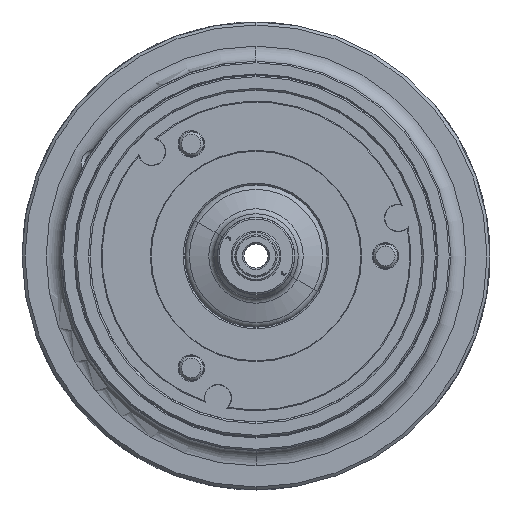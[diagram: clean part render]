
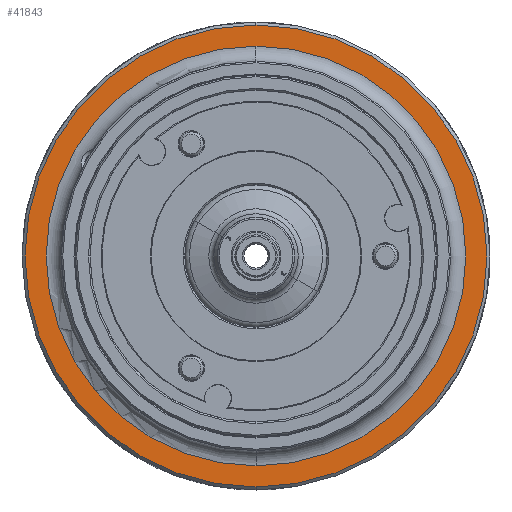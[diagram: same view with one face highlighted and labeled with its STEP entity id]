
A CAD part, left-side view. The second image highlights one B-rep face of the part: STEP entity #41843.
In plain terms, the highlighted planar face has unit normal (-1, 0, 0).
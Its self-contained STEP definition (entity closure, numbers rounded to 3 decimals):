
#5303 = DIRECTION ( 'NONE',  ( 0., 0., -1. ) ) ;
#6983 = AXIS2_PLACEMENT_3D ( 'NONE', #72939, #18132, #82153 ) ;
#18132 = DIRECTION ( 'NONE',  ( 1., 0., 0. ) ) ;
#20763 = CARTESIAN_POINT ( 'NONE',  ( -29.5, 0., 0. ) ) ;
#22701 = AXIS2_PLACEMENT_3D ( 'NONE', #108691, #54063, #117832 ) ;
#27197 = AXIS2_PLACEMENT_3D ( 'NONE', #20763, #84734, #29931 ) ;
#28340 = ORIENTED_EDGE ( 'NONE', *, *, #113622, .T. ) ;
#29121 = CARTESIAN_POINT ( 'NONE',  ( -29.5, 0., -139. ) ) ;
#29931 = DIRECTION ( 'NONE',  ( 0., 0., -1. ) ) ;
#31174 = AXIS2_PLACEMENT_3D ( 'NONE', #94401, #39665, #103513 ) ;
#32540 = DIRECTION ( 'NONE',  ( 1., 0., 0. ) ) ;
#37668 = AXIS2_PLACEMENT_3D ( 'NONE', #105606, #32540, #5303 ) ;
#39665 = DIRECTION ( 'NONE',  ( 1., 0., 0. ) ) ;
#41148 = CARTESIAN_POINT ( 'NONE',  ( -29.5, 0., -153. ) ) ;
#41843 = ADVANCED_FACE ( 'NONE', ( #95107, #46439 ), #114761, .F. ) ;
#42986 = VERTEX_POINT ( 'NONE', #110618 ) ;
#45119 = VERTEX_POINT ( 'NONE', #41148 ) ;
#46439 = FACE_BOUND ( 'NONE', #60003, .T. ) ;
#48404 = CIRCLE ( 'NONE', #22701, 139. ) ;
#50290 = EDGE_CURVE ( 'NONE', #42986, #45119, #77722, .T. ) ;
#54063 = DIRECTION ( 'NONE',  ( 1., 0., 0. ) ) ;
#60003 = EDGE_LOOP ( 'NONE', ( #64737, #28340 ) ) ;
#62212 = ORIENTED_EDGE ( 'NONE', *, *, #102563, .F. ) ;
#62596 = VERTEX_POINT ( 'NONE', #29121 ) ;
#64737 = ORIENTED_EDGE ( 'NONE', *, *, #103353, .T. ) ;
#65651 = EDGE_LOOP ( 'NONE', ( #62212, #69100 ) ) ;
#69100 = ORIENTED_EDGE ( 'NONE', *, *, #50290, .F. ) ;
#69650 = CIRCLE ( 'NONE', #6983, 139. ) ;
#72818 = CIRCLE ( 'NONE', #27197, 153. ) ;
#72939 = CARTESIAN_POINT ( 'NONE',  ( -29.5, 0., 0. ) ) ;
#77722 = CIRCLE ( 'NONE', #31174, 153. ) ;
#82153 = DIRECTION ( 'NONE',  ( 0., 0., -1. ) ) ;
#84734 = DIRECTION ( 'NONE',  ( 1., 0., 0. ) ) ;
#85361 = VERTEX_POINT ( 'NONE', #118142 ) ;
#94401 = CARTESIAN_POINT ( 'NONE',  ( -29.5, 0., 0. ) ) ;
#95107 = FACE_OUTER_BOUND ( 'NONE', #65651, .T. ) ;
#102563 = EDGE_CURVE ( 'NONE', #45119, #42986, #72818, .T. ) ;
#103353 = EDGE_CURVE ( 'NONE', #62596, #85361, #48404, .T. ) ;
#103513 = DIRECTION ( 'NONE',  ( 0., 0., -1. ) ) ;
#105606 = CARTESIAN_POINT ( 'NONE',  ( -29.5, -139., 0. ) ) ;
#108691 = CARTESIAN_POINT ( 'NONE',  ( -29.5, 0., 0. ) ) ;
#110618 = CARTESIAN_POINT ( 'NONE',  ( -29.5, 0., 153. ) ) ;
#113622 = EDGE_CURVE ( 'NONE', #85361, #62596, #69650, .T. ) ;
#114761 = PLANE ( 'NONE',  #37668 ) ;
#117832 = DIRECTION ( 'NONE',  ( 0., 0., -1. ) ) ;
#118142 = CARTESIAN_POINT ( 'NONE',  ( -29.5, 0., 139. ) ) ;
